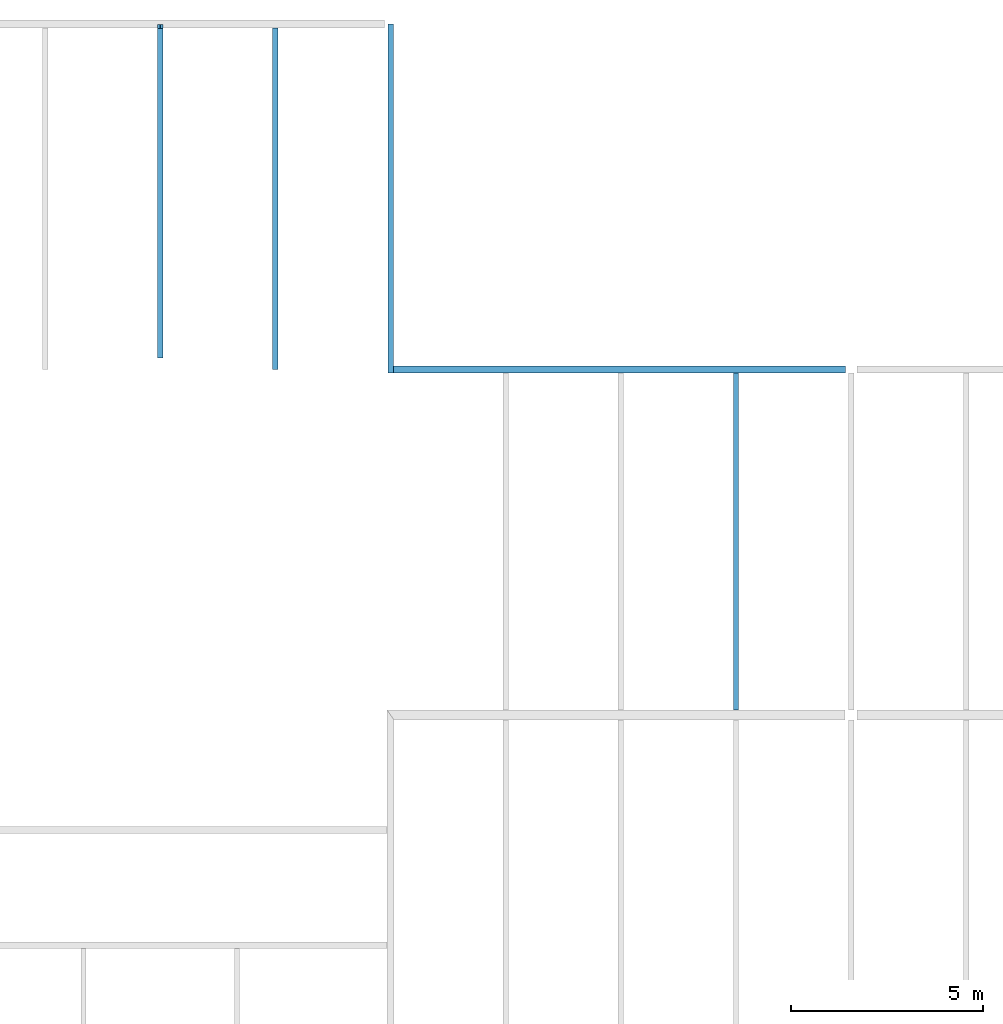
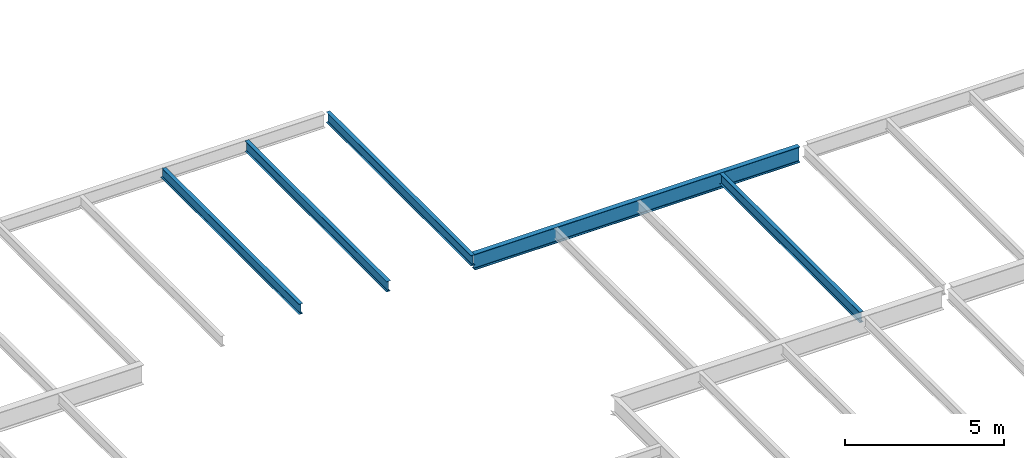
# One storey, part 12 of 21: 5 beams.
"""IFC2X3 building model written with IfcOpenShell, lengths in millimetres."""

from ifc_helpers import new_model, si_unit, origin, place, context, project, spatial, faceted_brep, material, element, save


model = new_model("IFC2X3")

# Units and contexts
context_of_model = context(None, 3, precision=1e-05, world=origin())
ifc_project = project(units=[si_unit("LENGTHUNIT", "METRE", prefix="MILLI")], contexts=[context_of_model])

# Building, storey
building = spatial("IfcBuilding", under=ifc_project, Name="Building", CompositionType="ELEMENT")
storey = spatial("IfcBuildingStorey", under=building, Name="FL6-FRM", CompositionType="ELEMENT")

# Beams
ifc_material_1 = material(Name="A992")
beam_1_placement = place(None, origin())
element("IfcBeam", 1, at=beam_1_placement, inside=storey, material=ifc_material_1, Name="B552", context=context_of_model, shape_type="Brep", body=[
    faceted_brep([(8930.0, 35895.5, 21974.0), (9070.0, 35895.5, 21974.0), (9070.0, 27000.0, 21974.0), (8930.0, 27000.0, 21974.0), (9070.0, 35895.5, 21982.8), (9070.0, 27000.0, 21982.8), (9013.4, 35895.5, 21982.8), (9013.4, 27000.0, 21982.8), (9010.76, 35895.5, 21983.1), (9010.76, 27000.0, 21983.1), (9008.3, 35895.5, 21984.2), (9008.3, 27000.0, 21984.2), (9006.19, 35895.5, 21985.8), (9006.19, 27000.0, 21985.8), (9004.57, 35895.5, 21987.9), (9004.57, 27000.0, 21987.9), (9003.55, 35895.5, 21990.4), (9003.55, 27000.0, 21990.4), (9003.2, 35895.5, 21993.0), (9003.2, 27000.0, 21993.0), (9003.2, 35895.5, 22354.0), (9003.2, 27000.0, 22354.0), (9003.55, 35895.5, 22356.6), (9003.55, 27000.0, 22356.6), (9004.57, 35895.5, 22359.1), (9004.57, 27000.0, 22359.1), (9006.19, 35895.5, 22361.2), (9006.19, 27000.0, 22361.2), (9008.3, 35895.5, 22362.8), (9008.3, 27000.0, 22362.8), (9010.76, 35895.5, 22363.9), (9010.76, 27000.0, 22363.9), (9013.4, 35895.5, 22364.2), (9013.4, 27000.0, 22364.2), (9070.0, 35895.5, 22364.2), (9070.0, 27000.0, 22364.2), (9070.0, 35895.5, 22373.0), (9070.0, 27000.0, 22373.0), (8930.0, 35895.5, 22373.0), (8930.0, 27000.0, 22373.0), (8930.0, 35895.5, 22364.2), (8930.0, 27000.0, 22364.2), (8986.6, 35895.5, 22364.2), (8986.6, 27000.0, 22364.2), (8989.24, 35895.5, 22363.9), (8989.24, 27000.0, 22363.9), (8991.7, 35895.5, 22362.8), (8991.7, 27000.0, 22362.8), (8993.81, 35895.5, 22361.2), (8993.81, 27000.0, 22361.2), (8995.43, 35895.5, 22359.1), (8995.43, 27000.0, 22359.1), (8996.45, 35895.5, 22356.6), (8996.45, 27000.0, 22356.6), (8996.8, 35895.5, 22354.0), (8996.8, 27000.0, 22354.0), (8996.8, 35895.5, 21993.0), (8996.8, 27000.0, 21993.0), (8996.45, 35895.5, 21990.4), (8996.45, 27000.0, 21990.4), (8995.43, 35895.5, 21987.9), (8995.43, 27000.0, 21987.9), (8993.81, 35895.5, 21985.8), (8993.81, 27000.0, 21985.8), (8991.7, 35895.5, 21984.2), (8991.7, 27000.0, 21984.2), (8989.24, 35895.5, 21983.1), (8989.24, 27000.0, 21983.1), (8986.6, 35895.5, 21982.8), (8986.6, 27000.0, 21982.8), (8930.0, 35895.5, 21982.8), (8930.0, 27000.0, 21982.8)], [[[0, 1, 2, 3]], [[1, 4, 5, 2]], [[4, 6, 7, 5]], [[6, 8, 9, 7]], [[8, 10, 11, 9]], [[10, 12, 13, 11]], [[12, 14, 15, 13]], [[14, 16, 17, 15]], [[16, 18, 19, 17]], [[18, 20, 21, 19]], [[20, 22, 23, 21]], [[22, 24, 25, 23]], [[24, 26, 27, 25]], [[26, 28, 29, 27]], [[28, 30, 31, 29]], [[30, 32, 33, 31]], [[32, 34, 35, 33]], [[34, 36, 37, 35]], [[36, 38, 39, 37]], [[38, 40, 41, 39]], [[40, 42, 43, 41]], [[42, 44, 45, 43]], [[44, 46, 47, 45]], [[46, 48, 49, 47]], [[48, 50, 51, 49]], [[50, 52, 53, 51]], [[52, 54, 55, 53]], [[54, 56, 57, 55]], [[56, 58, 59, 57]], [[58, 60, 61, 59]], [[60, 62, 63, 61]], [[62, 64, 65, 63]], [[64, 66, 67, 65]], [[66, 68, 69, 67]], [[68, 70, 71, 69]], [[70, 0, 3, 71]], [[0, 70, 68, 66, 64, 62, 60, 58, 56, 54, 52, 50, 48, 46, 44, 42, 40, 38, 36, 34, 32, 30, 28, 26, 24, 22, 20, 18, 16, 14, 12, 10, 8, 6, 4, 1]], [[3, 2, 5, 7, 9, 11, 13, 15, 17, 19, 21, 23, 25, 27, 29, 31, 33, 35, 37, 39, 41, 43, 45, 47, 49, 51, 53, 55, 57, 59, 61, 63, 65, 67, 69, 71]]]),
])
ifc_material_2 = material(Name="A992")
beam_2_placement = place(None, origin())
element("IfcBeam", 2, at=beam_2_placement, inside=storey, material=ifc_material_2, Name="B553", context=context_of_model, shape_type="Brep", body=[
    faceted_brep([(11930.0, 35995.6, 21974.0), (12070.0, 35995.6, 21974.0), (12070.0, 26910.5, 21974.0), (11930.0, 26910.5, 21974.0), (12070.0, 35995.6, 21982.8), (12070.0, 26910.5, 21982.8), (12013.4, 35995.6, 21982.8), (12013.4, 26910.5, 21982.8), (12010.8, 35995.6, 21983.1), (12010.8, 26910.5, 21983.1), (12008.3, 35995.6, 21984.2), (12008.3, 26910.5, 21984.2), (12006.2, 35995.6, 21985.8), (12006.2, 26910.5, 21985.8), (12004.6, 35995.6, 21987.9), (12004.6, 26910.5, 21987.9), (12003.5, 35995.6, 21990.4), (12003.5, 26910.5, 21990.4), (12003.2, 35995.6, 21993.0), (12003.2, 26910.5, 21993.0), (12003.2, 35995.6, 22354.0), (12003.2, 26910.5, 22354.0), (12003.5, 35995.6, 22356.6), (12003.5, 26910.5, 22356.6), (12004.6, 35995.6, 22359.1), (12004.6, 26910.5, 22359.1), (12006.2, 35995.6, 22361.2), (12006.2, 26910.5, 22361.2), (12008.3, 35995.6, 22362.8), (12008.3, 26910.5, 22362.8), (12010.8, 35995.6, 22363.9), (12010.8, 26910.5, 22363.9), (12013.4, 35995.6, 22364.2), (12013.4, 26910.5, 22364.2), (12070.0, 35995.6, 22364.2), (12070.0, 26910.5, 22364.2), (12070.0, 35995.6, 22373.0), (12070.0, 26910.5, 22373.0), (11930.0, 35995.6, 22373.0), (11930.0, 26910.5, 22373.0), (11930.0, 35995.6, 22364.2), (11930.0, 26910.5, 22364.2), (11986.6, 35995.6, 22364.2), (11986.6, 26910.5, 22364.2), (11989.2, 35995.6, 22363.9), (11989.2, 26910.5, 22363.9), (11991.7, 35995.6, 22362.8), (11991.7, 26910.5, 22362.8), (11993.8, 35995.6, 22361.2), (11993.8, 26910.5, 22361.2), (11995.4, 35995.6, 22359.1), (11995.4, 26910.5, 22359.1), (11996.5, 35995.6, 22356.6), (11996.5, 26910.5, 22356.6), (11996.8, 35995.6, 22354.0), (11996.8, 26910.5, 22354.0), (11996.8, 35995.6, 21993.0), (11996.8, 26910.5, 21993.0), (11996.5, 35995.6, 21990.4), (11996.5, 26910.5, 21990.4), (11995.4, 35995.6, 21987.9), (11995.4, 26910.5, 21987.9), (11993.8, 35995.6, 21985.8), (11993.8, 26910.5, 21985.8), (11991.7, 35995.6, 21984.2), (11991.7, 26910.5, 21984.2), (11989.2, 35995.6, 21983.1), (11989.2, 26910.5, 21983.1), (11986.6, 35995.6, 21982.8), (11986.6, 26910.5, 21982.8), (11930.0, 35995.6, 21982.8), (11930.0, 26910.5, 21982.8)], [[[0, 1, 2, 3]], [[1, 4, 5, 2]], [[4, 6, 7, 5]], [[6, 8, 9, 7]], [[8, 10, 11, 9]], [[10, 12, 13, 11]], [[12, 14, 15, 13]], [[14, 16, 17, 15]], [[16, 18, 19, 17]], [[18, 20, 21, 19]], [[20, 22, 23, 21]], [[22, 24, 25, 23]], [[24, 26, 27, 25]], [[26, 28, 29, 27]], [[28, 30, 31, 29]], [[30, 32, 33, 31]], [[32, 34, 35, 33]], [[34, 36, 37, 35]], [[36, 38, 39, 37]], [[38, 40, 41, 39]], [[40, 42, 43, 41]], [[42, 44, 45, 43]], [[44, 46, 47, 45]], [[46, 48, 49, 47]], [[48, 50, 51, 49]], [[50, 52, 53, 51]], [[52, 54, 55, 53]], [[54, 56, 57, 55]], [[56, 58, 59, 57]], [[58, 60, 61, 59]], [[60, 62, 63, 61]], [[62, 64, 65, 63]], [[64, 66, 67, 65]], [[66, 68, 69, 67]], [[68, 70, 71, 69]], [[70, 0, 3, 71]], [[0, 70, 68, 66, 64, 62, 60, 58, 56, 54, 52, 50, 48, 46, 44, 42, 40, 38, 36, 34, 32, 30, 28, 26, 24, 22, 20, 18, 16, 14, 12, 10, 8, 6, 4, 1]], [[3, 2, 5, 7, 9, 11, 13, 15, 17, 19, 21, 23, 25, 27, 29, 31, 33, 35, 37, 39, 41, 43, 45, 47, 49, 51, 53, 55, 57, 59, 61, 63, 65, 67, 69, 71]]]),
])
ifc_material_3 = material(Name="A992")
beam_3_placement = place(None, origin())
element("IfcBeam", 3, at=beam_3_placement, inside=storey, material=ifc_material_3, Name="B746", context=context_of_model, shape_type="Brep", body=[
    faceted_brep([(5930.0, 35985.2, 21974.0), (6070.0, 35985.2, 21974.0), (6070.0, 27304.9, 21974.0), (5930.0, 27304.9, 21974.0), (6070.0, 35985.2, 21982.8), (6070.0, 27304.9, 21982.8), (6013.4, 35985.3, 21982.8), (6013.4, 27304.9, 21982.8), (6012.94, 35985.3, 21982.8), (6012.94, 27304.9, 21982.8), (6012.49, 35985.3, 21982.8), (6012.49, 27304.9, 21982.8), (6012.03, 35985.3, 21982.9), (6012.03, 27304.9, 21982.9), (6011.58, 35985.3, 21983.0), (6011.58, 27304.9, 21983.0), (6011.13, 35985.3, 21983.1), (6011.13, 27304.9, 21983.1), (6010.69, 35985.3, 21983.2), (6010.69, 27304.9, 21983.2), (6010.25, 35985.3, 21983.3), (6010.25, 27304.9, 21983.3), (6009.82, 35985.3, 21983.5), (6009.82, 27304.9, 21983.5), (6009.39, 35985.3, 21983.6), (6009.39, 27304.9, 21983.6), (6008.97, 35985.3, 21983.8), (6008.97, 27304.9, 21983.8), (6008.57, 35985.3, 21984.0), (6008.57, 27304.9, 21984.0), (6008.17, 35985.3, 21984.2), (6008.17, 27304.9, 21984.2), (6007.78, 35985.3, 21984.5), (6007.78, 27304.9, 21984.5), (6007.4, 35985.3, 21984.7), (6007.4, 27304.9, 21984.7), (6007.04, 35985.3, 21985.0), (6007.04, 27304.9, 21985.0), (6006.69, 35985.3, 21985.3), (6006.69, 27304.9, 21985.3), (6006.35, 35985.3, 21985.6), (6006.35, 27304.9, 21985.6), (6006.03, 35985.3, 21986.0), (6006.03, 27304.9, 21986.0), (6005.72, 35985.3, 21986.3), (6005.72, 27304.9, 21986.3), (6005.43, 35985.3, 21986.6), (6005.43, 27304.9, 21986.6), (6005.15, 35985.2, 21987.0), (6005.15, 27304.9, 21987.0), (6004.89, 35985.2, 21987.4), (6004.89, 27304.9, 21987.4), (6004.64, 35985.2, 21987.8), (6004.64, 27304.9, 21987.8), (6004.42, 35985.2, 21988.2), (6004.42, 27304.9, 21988.2), (6004.21, 35985.2, 21988.6), (6004.21, 27304.9, 21988.6), (6004.02, 35985.3, 21989.0), (6004.02, 27304.9, 21989.0), (6003.85, 35985.3, 21989.4), (6003.85, 27304.9, 21989.4), (6003.7, 35985.3, 21989.8), (6003.7, 27304.9, 21989.8), (6003.57, 35985.3, 21990.3), (6003.57, 27304.9, 21990.3), (6003.46, 35985.3, 21990.7), (6003.46, 27304.9, 21990.7), (6003.36, 35985.3, 21991.2), (6003.36, 27304.9, 21991.2), (6003.29, 35985.3, 21991.6), (6003.29, 27304.9, 21991.6), (6003.24, 35985.3, 21992.1), (6003.24, 27304.9, 21992.1), (6003.21, 35985.3, 21992.5), (6003.21, 27304.9, 21992.5), (6003.2, 35985.3, 21993.0), (6003.2, 27304.9, 21993.0), (6003.2, 35985.3, 22349.7), (6003.2, 35895.5, 22349.7), (6003.2, 35895.1, 22349.7), (6003.2, 35894.6, 22349.7), (6003.2, 35894.2, 22349.8), (6003.2, 35893.7, 22349.9), (6003.2, 35893.3, 22349.9), (6003.2, 35892.8, 22350.1), (6003.2, 35892.4, 22350.2), (6003.2, 35892.0, 22350.3), (6003.2, 35891.6, 22350.5), (6003.2, 35891.2, 22350.7), (6003.2, 35890.8, 22350.9), (6003.2, 35890.4, 22351.1), (6003.2, 35890.0, 22351.3), (6003.2, 35889.6, 22351.6), (6003.2, 35889.3, 22351.9), (6003.2, 35888.9, 22352.2), (6003.2, 35888.6, 22352.5), (6003.2, 35888.3, 22352.8), (6003.2, 35888.0, 22353.1), (6003.2, 35887.7, 22353.5), (6003.2, 35887.4, 22353.8), (6003.2, 35887.3, 22354.0), (6003.2, 27304.9, 22354.0), (6003.2, 35887.2, 22354.2), (6003.21, 35887.0, 22354.4), (6003.21, 27304.9, 22354.4), (6003.22, 35886.9, 22354.6), (6003.24, 35886.7, 22354.9), (6003.24, 27304.9, 22354.9), (6003.25, 35886.7, 22355.0), (6003.29, 35886.5, 22355.3), (6003.29, 27304.9, 22355.3), (6003.29, 35886.5, 22355.4), (6003.35, 35886.3, 22355.8), (6003.35, 35886.3, 22355.8), (6003.35, 27304.9, 22355.8), (6003.44, 35886.1, 22356.2), (6003.44, 35886.1, 22356.2), (6003.44, 27304.9, 22356.2), (6003.54, 35886.0, 22356.6), (6003.55, 35886.0, 22356.6), (6003.55, 27304.9, 22356.6), (6003.66, 35885.9, 22357.0), (6003.67, 35885.9, 22357.1), (6003.67, 27304.9, 22357.1), (6003.81, 35885.8, 22357.5), (6003.82, 35885.7, 22357.5), (6003.82, 27304.9, 22357.5), (6003.98, 35885.7, 22357.9), (6003.98, 27304.9, 22357.9), (6003.98, 35885.7, 22357.9), (6004.16, 35885.6, 22358.3), (6004.16, 27304.9, 22358.3), (6004.17, 35885.6, 22358.3), (6004.35, 35885.5, 22358.7), (6004.35, 27304.9, 22358.7), (6004.4, 35885.5, 22358.8), (6004.57, 35885.5, 22359.1), (6004.57, 27304.9, 22359.1), (6004.65, 35885.5, 22359.2), (6004.8, 35885.5, 22359.5), (6004.8, 27304.9, 22359.5), (6004.94, 35885.5, 22359.7), (6005.04, 35885.5, 22359.9), (6005.04, 27304.9, 22359.9), (6005.31, 35885.5, 22360.2), (6005.31, 27304.9, 22360.2), (6005.59, 35885.5, 22360.6), (6005.59, 27304.9, 22360.6), (6005.88, 35885.5, 22360.9), (6005.88, 27304.9, 22360.9), (6006.19, 35885.5, 22361.2), (6006.19, 27304.9, 22361.2), (6006.51, 35885.5, 22361.5), (6006.51, 27304.9, 22361.5), (6006.84, 35885.5, 22361.8), (6006.84, 27304.9, 22361.8), (6007.19, 35885.5, 22362.1), (6007.19, 27304.9, 22362.1), (6007.55, 35885.5, 22362.4), (6007.55, 27304.9, 22362.4), (6007.92, 35885.5, 22362.6), (6007.92, 27304.9, 22362.6), (6008.3, 35885.5, 22362.8), (6008.3, 27304.9, 22362.8), (6008.69, 35885.5, 22363.0), (6008.69, 27304.9, 22363.0), (6009.09, 35885.5, 22363.2), (6009.09, 27304.9, 22363.2), (6009.5, 35885.5, 22363.4), (6009.5, 27304.9, 22363.4), (6009.91, 35885.5, 22363.6), (6009.91, 27304.9, 22363.6), (6010.33, 35885.5, 22363.7), (6010.33, 27304.9, 22363.7), (6010.76, 35885.5, 22363.9), (6010.76, 27304.9, 22363.9), (6011.19, 35885.5, 22364.0), (6011.19, 27304.9, 22364.0), (6011.63, 35885.5, 22364.0), (6011.63, 27304.9, 22364.0), (6012.07, 35885.5, 22364.1), (6012.07, 27304.9, 22364.1), (6012.51, 35885.5, 22364.2), (6012.51, 27304.9, 22364.2), (6012.96, 35885.5, 22364.2), (6012.96, 27304.9, 22364.2), (6013.4, 35885.5, 22364.2), (6013.4, 27304.9, 22364.2), (6070.0, 35885.5, 22364.2), (6070.0, 27304.9, 22364.2), (6070.0, 35885.5, 22373.0), (6070.0, 27304.9, 22373.0), (5930.0, 35885.5, 22373.0), (5930.0, 27304.9, 22373.0), (5930.0, 35885.5, 22364.2), (5930.0, 27304.9, 22364.2), (5986.6, 35885.5, 22364.2), (5986.6, 27304.9, 22364.2), (5987.04, 35885.5, 22364.2), (5987.04, 27304.9, 22364.2), (5987.49, 35885.5, 22364.2), (5987.49, 27304.9, 22364.2), (5987.93, 35885.5, 22364.1), (5987.93, 27304.9, 22364.1), (5988.37, 35885.5, 22364.0), (5988.37, 27304.9, 22364.0), (5988.81, 35885.5, 22364.0), (5988.81, 27304.9, 22364.0), (5989.24, 35885.5, 22363.9), (5989.24, 27304.9, 22363.9), (5989.67, 35885.5, 22363.7), (5989.67, 27304.9, 22363.7), (5990.09, 35885.5, 22363.6), (5990.09, 27304.9, 22363.6), (5990.5, 35885.5, 22363.4), (5990.5, 27304.9, 22363.4), (5990.91, 35885.5, 22363.2), (5990.91, 27304.9, 22363.2), (5991.31, 35885.5, 22363.0), (5991.31, 27304.9, 22363.0), (5991.7, 35885.5, 22362.8), (5991.7, 27304.9, 22362.8), (5992.08, 35885.5, 22362.6), (5992.08, 27304.9, 22362.6), (5992.45, 35885.5, 22362.4), (5992.45, 27304.9, 22362.4), (5992.81, 35885.5, 22362.1), (5992.81, 27304.9, 22362.1), (5993.16, 35885.5, 22361.8), (5993.16, 27304.9, 22361.8), (5993.49, 35885.5, 22361.5), (5993.49, 27304.9, 22361.5), (5993.81, 35885.5, 22361.2), (5993.81, 27304.9, 22361.2), (5994.12, 35885.5, 22360.9), (5994.12, 27304.9, 22360.9), (5994.41, 35885.5, 22360.6), (5994.41, 27304.9, 22360.6), (5994.69, 35885.5, 22360.2), (5994.69, 27304.9, 22360.2), (5994.96, 35885.5, 22359.9), (5994.96, 27304.9, 22359.9), (5995.06, 35885.5, 22359.7), (5995.2, 35885.5, 22359.5), (5995.2, 27304.9, 22359.5), (5995.35, 35885.5, 22359.2), (5995.43, 35885.5, 22359.1), (5995.43, 27304.9, 22359.1), (5995.6, 35885.5, 22358.8), (5995.65, 35885.5, 22358.7), (5995.65, 27304.9, 22358.7), (5995.83, 35885.6, 22358.3), (5995.84, 35885.6, 22358.3), (5995.84, 27304.9, 22358.3), (5996.02, 35885.7, 22357.9), (5996.02, 35885.7, 22357.9), (5996.02, 27304.9, 22357.9), (5996.18, 35885.7, 22357.5), (5996.18, 27304.9, 22357.5), (5996.19, 35885.8, 22357.5), (5996.33, 35885.9, 22357.1), (5996.33, 27304.9, 22357.1), (5996.34, 35885.9, 22357.0), (5996.45, 35886.0, 22356.6), (5996.45, 27304.9, 22356.6), (5996.46, 35886.0, 22356.6), (5996.56, 35886.1, 22356.2), (5996.56, 27304.9, 22356.2), (5996.56, 35886.1, 22356.2), (5996.65, 35886.3, 22355.8), (5996.65, 27304.9, 22355.8), (5996.65, 35886.3, 22355.8), (5996.71, 35886.5, 22355.4), (5996.71, 35886.5, 22355.3), (5996.71, 27304.9, 22355.3), (5996.75, 35886.7, 22355.0), (5996.76, 35886.7, 22354.9), (5996.76, 27304.9, 22354.9), (5996.78, 35886.9, 22354.6), (5996.79, 35887.0, 22354.4), (5996.79, 27304.9, 22354.4), (5996.8, 35887.2, 22354.2), (5996.8, 35887.3, 22354.0), (5996.8, 27304.9, 22354.0), (5996.8, 35887.4, 22353.8), (5996.8, 35887.7, 22353.5), (5996.8, 35888.0, 22353.1), (5996.8, 35888.3, 22352.8), (5996.8, 35888.6, 22352.5), (5996.8, 35888.9, 22352.2), (5996.8, 35889.3, 22351.9), (5996.8, 35889.6, 22351.6), (5996.8, 35890.0, 22351.3), (5996.8, 35890.4, 22351.1), (5996.8, 35890.8, 22350.9), (5996.8, 35891.2, 22350.7), (5996.8, 35891.6, 22350.5), (5996.8, 35892.0, 22350.3), (5996.8, 35892.4, 22350.2), (5996.8, 35892.8, 22350.1), (5996.8, 35893.3, 22349.9), (5996.8, 35893.7, 22349.9), (5996.8, 35894.2, 22349.8), (5996.8, 35894.6, 22349.7), (5996.8, 35895.1, 22349.7), (5996.8, 35895.5, 22349.7), (5996.8, 35985.3, 22349.7), (5996.8, 35985.3, 21993.0), (5996.8, 27304.9, 21993.0), (5996.79, 35985.3, 21992.5), (5996.79, 27304.9, 21992.5), (5996.76, 35985.3, 21992.1), (5996.76, 27304.9, 21992.1), (5996.71, 35985.3, 21991.6), (5996.71, 27304.9, 21991.6), (5996.64, 35985.3, 21991.2), (5996.64, 27304.9, 21991.2), (5996.54, 35985.3, 21990.7), (5996.54, 27304.9, 21990.7), (5996.43, 35985.3, 21990.3), (5996.43, 27304.9, 21990.3), (5996.3, 35985.3, 21989.8), (5996.3, 27304.9, 21989.8), (5996.15, 35985.3, 21989.4), (5996.15, 27304.9, 21989.4), (5995.98, 35985.3, 21989.0), (5995.98, 27304.9, 21989.0), (5995.79, 35985.3, 21988.6), (5995.79, 27304.9, 21988.6), (5995.58, 35985.3, 21988.2), (5995.58, 27304.9, 21988.2), (5995.36, 35985.3, 21987.8), (5995.36, 27304.9, 21987.8), (5995.11, 35985.3, 21987.4), (5995.11, 27304.9, 21987.4), (5994.85, 35985.3, 21987.0), (5994.85, 27304.9, 21987.0), (5994.57, 35985.3, 21986.6), (5994.57, 27304.9, 21986.6), (5994.28, 35985.3, 21986.3), (5994.28, 27304.9, 21986.3), (5993.97, 35985.3, 21986.0), (5993.97, 27304.9, 21986.0), (5993.65, 35985.3, 21985.6), (5993.65, 27304.9, 21985.6), (5993.31, 35985.3, 21985.3), (5993.31, 27304.9, 21985.3), (5992.96, 35985.3, 21985.0), (5992.96, 27304.9, 21985.0), (5992.6, 35985.3, 21984.7), (5992.6, 27304.9, 21984.7), (5992.22, 35985.3, 21984.5), (5992.22, 27304.9, 21984.5), (5991.83, 35985.3, 21984.2), (5991.83, 27304.9, 21984.2), (5991.43, 35985.3, 21984.0), (5991.43, 27304.9, 21984.0), (5991.03, 35985.3, 21983.8), (5991.03, 27304.9, 21983.8), (5990.61, 35985.3, 21983.6), (5990.61, 27304.9, 21983.6), (5990.18, 35985.3, 21983.5), (5990.18, 27304.9, 21983.5), (5989.75, 35985.3, 21983.3), (5989.75, 27304.9, 21983.3), (5989.31, 35985.3, 21983.2), (5989.31, 27304.9, 21983.2), (5988.87, 35985.3, 21983.1), (5988.87, 27304.9, 21983.1), (5988.42, 35985.2, 21983.0), (5988.42, 27304.9, 21983.0), (5987.97, 35985.2, 21982.9), (5987.97, 27304.9, 21982.9), (5987.51, 35985.3, 21982.8), (5987.51, 27304.9, 21982.8), (5987.06, 35985.3, 21982.8), (5987.06, 27304.9, 21982.8), (5986.6, 35985.3, 21982.8), (5986.6, 27304.9, 21982.8), (5930.0, 35985.2, 21982.8), (5930.0, 27304.9, 21982.8)], [[[0, 1, 2, 3]], [[1, 4, 5, 2]], [[4, 6, 7, 5]], [[6, 8, 9, 7]], [[8, 10, 11, 9]], [[10, 12, 13, 11]], [[12, 14, 15, 13]], [[14, 16, 17, 15]], [[16, 18, 19, 17]], [[18, 20, 21, 19]], [[20, 22, 23, 21]], [[22, 24, 25, 23]], [[24, 26, 27, 25]], [[26, 28, 29, 27]], [[28, 30, 31, 29]], [[30, 32, 33, 31]], [[32, 34, 35, 33]], [[34, 36, 37, 35]], [[36, 38, 39, 37]], [[38, 40, 41, 39]], [[40, 42, 43, 41]], [[42, 44, 45, 43]], [[44, 46, 47, 45]], [[46, 48, 49, 47]], [[48, 50, 51, 49]], [[50, 52, 53, 51]], [[52, 54, 55, 53]], [[54, 56, 57, 55]], [[56, 58, 59, 57]], [[58, 60, 61, 59]], [[60, 62, 63, 61]], [[62, 64, 65, 63]], [[64, 66, 67, 65]], [[66, 68, 69, 67]], [[68, 70, 71, 69]], [[70, 72, 73, 71]], [[72, 74, 75, 73]], [[74, 76, 77, 75]], [[76, 78, 79, 80, 81, 82, 83, 84, 85, 86, 87, 88, 89, 90, 91, 92, 93, 94, 95, 96, 97, 98, 99, 100, 101, 102, 77]], [[101, 103, 104, 105, 102]], [[104, 106, 107, 108, 105]], [[107, 109, 110, 111, 108]], [[110, 112, 113, 114, 115, 111]], [[114, 116, 117, 118, 115]], [[117, 119, 120, 121, 118]], [[120, 122, 123, 124, 121]], [[123, 125, 126, 127, 124]], [[126, 128, 129, 127]], [[128, 130, 131, 132, 129]], [[131, 133, 134, 135, 132]], [[134, 136, 137, 138, 135]], [[137, 139, 140, 141, 138]], [[140, 142, 143, 144, 141]], [[143, 145, 146, 144]], [[145, 147, 148, 146]], [[147, 149, 150, 148]], [[149, 151, 152, 150]], [[151, 153, 154, 152]], [[153, 155, 156, 154]], [[155, 157, 158, 156]], [[157, 159, 160, 158]], [[159, 161, 162, 160]], [[161, 163, 164, 162]], [[163, 165, 166, 164]], [[165, 167, 168, 166]], [[167, 169, 170, 168]], [[169, 171, 172, 170]], [[171, 173, 174, 172]], [[173, 175, 176, 174]], [[175, 177, 178, 176]], [[177, 179, 180, 178]], [[179, 181, 182, 180]], [[181, 183, 184, 182]], [[183, 185, 186, 184]], [[185, 187, 188, 186]], [[187, 189, 190, 188]], [[189, 191, 192, 190]], [[191, 193, 194, 192]], [[193, 195, 196, 194]], [[195, 197, 198, 196]], [[197, 199, 200, 198]], [[199, 201, 202, 200]], [[201, 203, 204, 202]], [[203, 205, 206, 204]], [[205, 207, 208, 206]], [[207, 209, 210, 208]], [[209, 211, 212, 210]], [[211, 213, 214, 212]], [[213, 215, 216, 214]], [[215, 217, 218, 216]], [[217, 219, 220, 218]], [[219, 221, 222, 220]], [[221, 223, 224, 222]], [[223, 225, 226, 224]], [[225, 227, 228, 226]], [[227, 229, 230, 228]], [[229, 231, 232, 230]], [[231, 233, 234, 232]], [[233, 235, 236, 234]], [[235, 237, 238, 236]], [[237, 239, 240, 238]], [[239, 241, 242, 240]], [[241, 243, 244, 245, 242]], [[244, 246, 247, 248, 245]], [[247, 249, 250, 251, 248]], [[250, 252, 253, 254, 251]], [[253, 255, 256, 257, 254]], [[256, 258, 259, 257]], [[258, 260, 261, 262, 259]], [[261, 263, 264, 265, 262]], [[264, 266, 267, 268, 265]], [[267, 269, 270, 271, 268]], [[270, 272, 273, 274, 275, 271]], [[274, 276, 277, 278, 275]], [[277, 279, 280, 281, 278]], [[280, 282, 283, 284, 281]], [[283, 285, 286, 287, 288, 289, 290, 291, 292, 293, 294, 295, 296, 297, 298, 299, 300, 301, 302, 303, 304, 305, 306, 307, 308, 309, 284]], [[308, 310, 311, 309]], [[310, 312, 313, 311]], [[312, 314, 315, 313]], [[314, 316, 317, 315]], [[316, 318, 319, 317]], [[318, 320, 321, 319]], [[320, 322, 323, 321]], [[322, 324, 325, 323]], [[324, 326, 327, 325]], [[326, 328, 329, 327]], [[328, 330, 331, 329]], [[330, 332, 333, 331]], [[332, 334, 335, 333]], [[334, 336, 337, 335]], [[336, 338, 339, 337]], [[338, 340, 341, 339]], [[340, 342, 343, 341]], [[342, 344, 345, 343]], [[344, 346, 347, 345]], [[346, 348, 349, 347]], [[348, 350, 351, 349]], [[350, 352, 353, 351]], [[352, 354, 355, 353]], [[354, 356, 357, 355]], [[356, 358, 359, 357]], [[358, 360, 361, 359]], [[360, 362, 363, 361]], [[362, 364, 365, 363]], [[364, 366, 367, 365]], [[366, 368, 369, 367]], [[368, 370, 371, 369]], [[370, 372, 373, 371]], [[372, 374, 375, 373]], [[374, 376, 377, 375]], [[376, 378, 379, 377]], [[378, 380, 381, 379]], [[380, 0, 3, 381]], [[3, 2, 5, 7, 9, 11, 13, 15, 17, 19, 21, 23, 25, 27, 29, 31, 33, 35, 37, 39, 41, 43, 45, 47, 49, 51, 53, 55, 57, 59, 61, 63, 65, 67, 69, 71, 73, 75, 77, 102, 105, 108, 111, 115, 118, 121, 124, 127, 129, 132, 135, 138, 141, 144, 146, 148, 150, 152, 154, 156, 158, 160, 162, 164, 166, 168, 170, 172, 174, 176, 178, 180, 182, 184, 186, 188, 190, 192, 194, 196, 198, 200, 202, 204, 206, 208, 210, 212, 214, 216, 218, 220, 222, 224, 226, 228, 230, 232, 234, 236, 238, 240, 242, 245, 248, 251, 254, 257, 259, 262, 265, 268, 271, 275, 278, 281, 284, 309, 311, 313, 315, 317, 319, 321, 323, 325, 327, 329, 331, 333, 335, 337, 339, 341, 343, 345, 347, 349, 351, 353, 355, 357, 359, 361, 363, 365, 367, 369, 371, 373, 375, 377, 379, 381]], [[142, 243, 241, 239, 237, 235, 233, 231, 229, 227, 225, 223, 221, 219, 217, 215, 213, 211, 209, 207, 205, 203, 201, 199, 197, 195, 193, 191, 189, 187, 185, 183, 181, 179, 177, 175, 173, 171, 169, 167, 165, 163, 161, 159, 157, 155, 153, 151, 149, 147, 145, 143]], [[243, 142, 140, 139, 246, 244]], [[246, 139, 137, 136, 249, 247]], [[249, 136, 134, 133, 252, 250]], [[252, 133, 131, 130, 255, 253]], [[255, 130, 128, 126, 125, 260, 258, 256]], [[260, 125, 123, 122, 263, 261]], [[263, 122, 120, 119, 266, 264]], [[266, 119, 117, 116, 269, 267]], [[269, 116, 114, 113, 272, 270]], [[272, 113, 112, 273]], [[273, 112, 110, 109, 276, 274]], [[276, 109, 107, 106, 279, 277]], [[279, 106, 104, 103, 282, 280]], [[282, 103, 101, 100, 285, 283]], [[285, 100, 99, 286]], [[286, 99, 98, 287]], [[287, 98, 97, 288]], [[288, 97, 96, 289]], [[289, 96, 95, 290]], [[290, 95, 94, 291]], [[291, 94, 93, 292]], [[292, 93, 92, 293]], [[293, 92, 91, 294]], [[294, 91, 90, 295]], [[295, 90, 89, 296]], [[296, 89, 88, 297]], [[297, 88, 87, 298]], [[298, 87, 86, 299]], [[299, 86, 85, 300]], [[300, 85, 84, 301]], [[301, 84, 83, 302]], [[302, 83, 82, 303]], [[303, 82, 81, 304]], [[304, 81, 80, 305]], [[305, 80, 79, 306]], [[306, 79, 78, 307]], [[307, 78, 76, 74, 72, 70, 68, 66, 64, 62, 60, 58, 56, 54, 52, 50, 48, 46, 44, 42, 40, 38, 36, 34, 32, 30, 28, 26, 24, 22, 20, 18, 16, 14, 12, 10, 8, 6, 4, 1, 0, 380, 378, 376, 374, 372, 370, 368, 366, 364, 362, 360, 358, 356, 354, 352, 350, 348, 346, 344, 342, 340, 338, 336, 334, 332, 330, 328, 326, 324, 322, 320, 318, 316, 314, 312, 310, 308]]]),
])
ifc_material_4 = material(Name="A992")
beam_4_placement = place(None, origin())
element("IfcBeam", 4, at=beam_4_placement, inside=storey, material=ifc_material_4, Name="B865", context=context_of_model, shape_type="Brep", body=[
    faceted_brep([(20930.0, 26910.5, 21970.0), (21070.0, 26910.5, 21970.0), (21070.0, 18132.5, 21970.0), (20930.0, 18132.5, 21970.0), (21070.0, 26910.5, 21981.2), (21070.0, 18132.5, 21981.2), (21013.7, 26910.5, 21981.2), (21013.7, 18132.5, 21981.2), (21011.1, 26910.5, 21981.5), (21011.1, 18132.5, 21981.5), (21008.6, 26910.5, 21982.6), (21008.6, 18132.5, 21982.6), (21006.5, 26910.5, 21984.2), (21006.5, 18132.5, 21984.2), (21004.9, 26910.5, 21986.3), (21004.9, 18132.5, 21986.3), (21003.8, 26910.5, 21988.8), (21003.8, 18132.5, 21988.8), (21003.5, 26910.5, 21991.4), (21003.5, 18132.5, 21991.4), (21003.5, 26910.5, 22351.6), (21003.5, 18132.5, 22351.6), (21003.8, 26910.5, 22354.2), (21003.8, 18132.5, 22354.2), (21004.9, 26910.5, 22356.7), (21004.9, 18132.5, 22356.7), (21006.5, 26910.5, 22358.8), (21006.5, 18132.5, 22358.8), (21008.6, 26910.5, 22360.4), (21008.6, 18132.5, 22360.4), (21011.1, 26910.5, 22361.5), (21011.1, 18132.5, 22361.5), (21013.7, 26910.5, 22361.8), (21013.7, 18132.5, 22361.8), (21070.0, 26910.5, 22361.8), (21070.0, 18132.5, 22361.8), (21070.0, 26910.5, 22373.0), (21070.0, 18132.5, 22373.0), (20930.0, 26910.5, 22373.0), (20930.0, 18132.5, 22373.0), (20930.0, 26910.5, 22361.8), (20930.0, 18132.5, 22361.8), (20986.3, 26910.5, 22361.8), (20986.3, 18132.5, 22361.8), (20988.9, 26910.5, 22361.5), (20988.9, 18132.5, 22361.5), (20991.4, 26910.5, 22360.4), (20991.4, 18132.5, 22360.4), (20993.5, 26910.5, 22358.8), (20993.5, 18132.5, 22358.8), (20995.1, 26910.5, 22356.7), (20995.1, 18132.5, 22356.7), (20996.2, 26910.5, 22354.2), (20996.2, 18132.5, 22354.2), (20996.5, 26910.5, 22351.6), (20996.5, 18132.5, 22351.6), (20996.5, 26910.5, 21991.4), (20996.5, 18132.5, 21991.4), (20996.2, 26910.5, 21988.8), (20996.2, 18132.5, 21988.8), (20995.1, 26910.5, 21986.3), (20995.1, 18132.5, 21986.3), (20993.5, 26910.5, 21984.2), (20993.5, 18132.5, 21984.2), (20991.4, 26910.5, 21982.6), (20991.4, 18132.5, 21982.6), (20988.9, 26910.5, 21981.5), (20988.9, 18132.5, 21981.5), (20986.3, 26910.5, 21981.2), (20986.3, 18132.5, 21981.2), (20930.0, 26910.5, 21981.2), (20930.0, 18132.5, 21981.2)], [[[0, 1, 2, 3]], [[1, 4, 5, 2]], [[4, 6, 7, 5]], [[6, 8, 9, 7]], [[8, 10, 11, 9]], [[10, 12, 13, 11]], [[12, 14, 15, 13]], [[14, 16, 17, 15]], [[16, 18, 19, 17]], [[18, 20, 21, 19]], [[20, 22, 23, 21]], [[22, 24, 25, 23]], [[24, 26, 27, 25]], [[26, 28, 29, 27]], [[28, 30, 31, 29]], [[30, 32, 33, 31]], [[32, 34, 35, 33]], [[34, 36, 37, 35]], [[36, 38, 39, 37]], [[38, 40, 41, 39]], [[40, 42, 43, 41]], [[42, 44, 45, 43]], [[44, 46, 47, 45]], [[46, 48, 49, 47]], [[48, 50, 51, 49]], [[50, 52, 53, 51]], [[52, 54, 55, 53]], [[54, 56, 57, 55]], [[56, 58, 59, 57]], [[58, 60, 61, 59]], [[60, 62, 63, 61]], [[62, 64, 65, 63]], [[64, 66, 67, 65]], [[66, 68, 69, 67]], [[68, 70, 71, 69]], [[70, 0, 3, 71]], [[0, 70, 68, 66, 64, 62, 60, 58, 56, 54, 52, 50, 48, 46, 44, 42, 40, 38, 36, 34, 32, 30, 28, 26, 24, 22, 20, 18, 16, 14, 12, 10, 8, 6, 4, 1]], [[3, 2, 5, 7, 9, 11, 13, 15, 17, 19, 21, 23, 25, 27, 29, 31, 33, 35, 37, 39, 41, 43, 45, 47, 49, 51, 53, 55, 57, 59, 61, 63, 65, 67, 69, 71]]]),
])
ifc_material_5 = material(Name="A992")
beam_5_placement = place(None, origin())
element("IfcBeam", 5, at=beam_5_placement, inside=storey, material=ifc_material_5, Name="Column604", context=context_of_model, shape_type="Brep", body=[
    faceted_brep([(12070.0, 26910.5, 21770.0), (12070.0, 27089.5, 21770.0), (23847.0, 27089.5, 21770.0), (23847.0, 26910.5, 21770.0), (12070.0, 27089.5, 21785.0), (23847.0, 27089.5, 21785.0), (12070.0, 27020.6, 21785.0), (23847.0, 27020.6, 21785.0), (12070.0, 27016.7, 21785.5), (23847.0, 27016.7, 21785.5), (12070.0, 27013.0, 21787.0), (23847.0, 27013.0, 21787.0), (12070.0, 27009.9, 21789.5), (23847.0, 27009.9, 21789.5), (12070.0, 27007.5, 21792.6), (23847.0, 27007.5, 21792.6), (12070.0, 27006.0, 21796.3), (23847.0, 27006.0, 21796.3), (12070.0, 27005.4, 21800.2), (23847.0, 27005.4, 21800.2), (12070.0, 27005.4, 22342.8), (23847.0, 27005.4, 22342.8), (12070.0, 27006.0, 22346.7), (23847.0, 27006.0, 22346.7), (12070.0, 27007.5, 22350.4), (23847.0, 27007.5, 22350.4), (12070.0, 27009.9, 22353.5), (23847.0, 27009.9, 22353.5), (12070.0, 27013.0, 22356.0), (23847.0, 27013.0, 22356.0), (12070.0, 27016.7, 22357.5), (23847.0, 27016.7, 22357.5), (12070.0, 27020.6, 22358.0), (23847.0, 27020.6, 22358.0), (12070.0, 27089.5, 22358.0), (23847.0, 27089.5, 22358.0), (12070.0, 27089.5, 22373.0), (23847.0, 27089.5, 22373.0), (12070.0, 26910.5, 22373.0), (23847.0, 26910.5, 22373.0), (12070.0, 26910.5, 22358.0), (23847.0, 26910.5, 22358.0), (12070.0, 26979.4, 22358.0), (23847.0, 26979.4, 22358.0), (12070.0, 26983.3, 22357.5), (23847.0, 26983.3, 22357.5), (12070.0, 26987.0, 22356.0), (23847.0, 26987.0, 22356.0), (12070.0, 26990.1, 22353.5), (23847.0, 26990.1, 22353.5), (12070.0, 26992.5, 22350.4), (23847.0, 26992.5, 22350.4), (12070.0, 26994.0, 22346.7), (23847.0, 26994.0, 22346.7), (12070.0, 26994.6, 22342.8), (23847.0, 26994.6, 22342.8), (12070.0, 26994.6, 21800.2), (23847.0, 26994.6, 21800.2), (12070.0, 26994.0, 21796.3), (23847.0, 26994.0, 21796.3), (12070.0, 26992.5, 21792.6), (23847.0, 26992.5, 21792.6), (12070.0, 26990.1, 21789.5), (23847.0, 26990.1, 21789.5), (12070.0, 26987.0, 21787.0), (23847.0, 26987.0, 21787.0), (12070.0, 26983.3, 21785.5), (23847.0, 26983.3, 21785.5), (12070.0, 26979.4, 21785.0), (23847.0, 26979.4, 21785.0), (12070.0, 26910.5, 21785.0), (23847.0, 26910.5, 21785.0)], [[[0, 1, 2, 3]], [[1, 4, 5, 2]], [[4, 6, 7, 5]], [[6, 8, 9, 7]], [[8, 10, 11, 9]], [[10, 12, 13, 11]], [[12, 14, 15, 13]], [[14, 16, 17, 15]], [[16, 18, 19, 17]], [[18, 20, 21, 19]], [[20, 22, 23, 21]], [[22, 24, 25, 23]], [[24, 26, 27, 25]], [[26, 28, 29, 27]], [[28, 30, 31, 29]], [[30, 32, 33, 31]], [[32, 34, 35, 33]], [[34, 36, 37, 35]], [[36, 38, 39, 37]], [[38, 40, 41, 39]], [[40, 42, 43, 41]], [[42, 44, 45, 43]], [[44, 46, 47, 45]], [[46, 48, 49, 47]], [[48, 50, 51, 49]], [[50, 52, 53, 51]], [[52, 54, 55, 53]], [[54, 56, 57, 55]], [[56, 58, 59, 57]], [[58, 60, 61, 59]], [[60, 62, 63, 61]], [[62, 64, 65, 63]], [[64, 66, 67, 65]], [[66, 68, 69, 67]], [[68, 70, 71, 69]], [[70, 0, 3, 71]], [[0, 70, 68, 66, 64, 62, 60, 58, 56, 54, 52, 50, 48, 46, 44, 42, 40, 38, 36, 34, 32, 30, 28, 26, 24, 22, 20, 18, 16, 14, 12, 10, 8, 6, 4, 1]], [[3, 2, 5, 7, 9, 11, 13, 15, 17, 19, 21, 23, 25, 27, 29, 31, 33, 35, 37, 39, 41, 43, 45, 47, 49, 51, 53, 55, 57, 59, 61, 63, 65, 67, 69, 71]]]),
])

save(model, "model.ifc")
